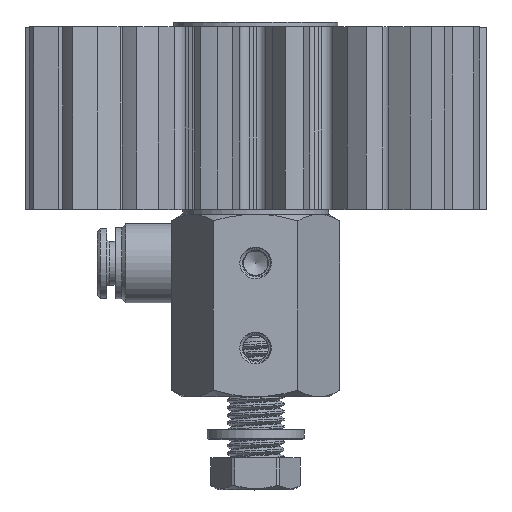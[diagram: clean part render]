
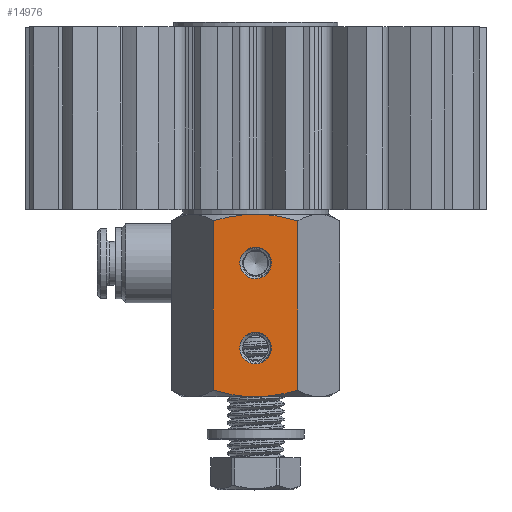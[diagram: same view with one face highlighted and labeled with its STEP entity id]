
A CAD part, top view. The second image highlights one B-rep face of the part: STEP entity #14976.
In plain terms, the highlighted planar face has unit normal (0, 0, 1).
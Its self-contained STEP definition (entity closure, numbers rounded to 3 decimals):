
#90 = EDGE_CURVE ( 'NONE', #27015, #6033, #15131, .T. ) ;
#274 = DIRECTION ( 'NONE',  ( 1., 0., 0. ) ) ;
#310 = CARTESIAN_POINT ( 'NONE',  ( 4.663, 0.477, 12. ) ) ;
#528 = CARTESIAN_POINT ( 'NONE',  ( 2.353, 0.124, 12. ) ) ;
#961 = CARTESIAN_POINT ( 'NONE',  ( 5.801, 0.746, 12. ) ) ;
#1232 = ORIENTED_EDGE ( 'NONE', *, *, #90, .T. ) ;
#1631 = EDGE_CURVE ( 'NONE', #38159, #13954, #20468, .T. ) ;
#1836 = PLANE ( 'NONE',  #23985 ) ;
#3122 = CARTESIAN_POINT ( 'NONE',  ( 4.661, 29.523, 12. ) ) ;
#4281 = CARTESIAN_POINT ( 'NONE',  ( -0.593, 30., 12. ) ) ;
#4329 = CARTESIAN_POINT ( 'NONE',  ( 0., 0., 12. ) ) ;
#4598 = EDGE_LOOP ( 'NONE', ( #30319 ) ) ;
#5013 = CARTESIAN_POINT ( 'NONE',  ( 6.928, 30., 12. ) ) ;
#5203 = ORIENTED_EDGE ( 'NONE', *, *, #20960, .T. ) ;
#5540 = CARTESIAN_POINT ( 'NONE',  ( 2.6, 8., 12. ) ) ;
#6033 = VERTEX_POINT ( 'NONE', #4329 ) ;
#6773 = VECTOR ( 'NONE', #24386, 1000. ) ;
#7153 = CARTESIAN_POINT ( 'NONE',  ( 6.928, 1.072, 12. ) ) ;
#7175 = ORIENTED_EDGE ( 'NONE', *, *, #26886, .T. ) ;
#7472 = DIRECTION ( 'NONE',  ( 0., 0., 1. ) ) ;
#8324 = CARTESIAN_POINT ( 'NONE',  ( -6.928, 28.928, 12. ) ) ;
#8405 = DIRECTION ( 'NONE',  ( -1., 0., 0. ) ) ;
#10098 = CIRCLE ( 'NONE', #31641, 2.6 ) ;
#10330 = CARTESIAN_POINT ( 'NONE',  ( 6.928, 28.928, 12. ) ) ;
#10480 = EDGE_CURVE ( 'NONE', #6033, #19406, #22964, .T. ) ;
#10809 = CARTESIAN_POINT ( 'NONE',  ( -2.353, 29.876, 12. ) ) ;
#10888 = LINE ( 'NONE', #14471, #6773 ) ;
#10895 = CARTESIAN_POINT ( 'NONE',  ( 0., 0., 12. ) ) ;
#10916 = B_SPLINE_CURVE_WITH_KNOTS ( 'NONE', 3,
 ( #10330, #34387, #3122, #44076, #19989, #34611 ),
 .UNSPECIFIED., .F., .F.,
 ( 4, 2, 4 ),
 ( 0.015, 0.019, 0.022 ),
 .UNSPECIFIED. ) ;
#11710 = CARTESIAN_POINT ( 'NONE',  ( -2.933, 29.803, 12. ) ) ;
#13167 = LINE ( 'NONE', #43298, #28460 ) ;
#13584 = CARTESIAN_POINT ( 'NONE',  ( -5.8, 0.746, 12. ) ) ;
#13954 = VERTEX_POINT ( 'NONE', #30226 ) ;
#14087 = ORIENTED_EDGE ( 'NONE', *, *, #42155, .F. ) ;
#14471 = CARTESIAN_POINT ( 'NONE',  ( 6.928, 30., 12. ) ) ;
#14613 = CARTESIAN_POINT ( 'NONE',  ( -1.183, 29.974, 12. ) ) ;
#14976 = ADVANCED_FACE ( 'NONE', ( #25701, #39866, #29512 ), #1836, .T. ) ;
#15131 = B_SPLINE_CURVE_WITH_KNOTS ( 'NONE', 3,
 ( #30247, #13584, #33831, #41464, #23718, #41029 ),
 .UNSPECIFIED., .F., .F.,
 ( 4, 2, 4 ),
 ( 0.015, 0.019, 0.022 ),
 .UNSPECIFIED. ) ;
#17337 = ORIENTED_EDGE ( 'NONE', *, *, #10480, .T. ) ;
#17586 = CARTESIAN_POINT ( 'NONE',  ( 0., 8., 12. ) ) ;
#17833 = DIRECTION ( 'NONE',  ( 0., 0., -1. ) ) ;
#19116 = CARTESIAN_POINT ( 'NONE',  ( 0., 30., 12. ) ) ;
#19272 = EDGE_LOOP ( 'NONE', ( #5203 ) ) ;
#19406 = VERTEX_POINT ( 'NONE', #7153 ) ;
#19989 = CARTESIAN_POINT ( 'NONE',  ( 1.186, 30., 12. ) ) ;
#20468 = B_SPLINE_CURVE_WITH_KNOTS ( 'NONE', 3,
 ( #42511, #4281, #14613, #10809, #11710, #25649, #40039, #8324 ),
 .UNSPECIFIED., .F., .F.,
 ( 4, 2, 2, 4 ),
 ( 0.022, 0.024, 0.026, 0.029 ),
 .UNSPECIFIED. ) ;
#20551 = AXIS2_PLACEMENT_3D ( 'NONE', #17586, #7472, #274 ) ;
#20960 = EDGE_CURVE ( 'NONE', #39034, #39034, #10098, .T. ) ;
#21888 = EDGE_LOOP ( 'NONE', ( #22915, #40230, #7175, #1232, #17337, #14087 ) ) ;
#21891 = CARTESIAN_POINT ( 'NONE',  ( 0.593, 0., 12. ) ) ;
#22093 = CARTESIAN_POINT ( 'NONE',  ( 6.928, 28.928, 12. ) ) ;
#22915 = ORIENTED_EDGE ( 'NONE', *, *, #43459, .T. ) ;
#22964 = B_SPLINE_CURVE_WITH_KNOTS ( 'NONE', 3,
 ( #10895, #21891, #25058, #528, #38768, #310, #961, #28648 ),
 .UNSPECIFIED., .F., .F.,
 ( 4, 2, 2, 4 ),
 ( 0.022, 0.024, 0.026, 0.029 ),
 .UNSPECIFIED. ) ;
#23718 = CARTESIAN_POINT ( 'NONE',  ( -1.186, 0., 12. ) ) ;
#23985 = AXIS2_PLACEMENT_3D ( 'NONE', #5013, #43229, #32890 ) ;
#24386 = DIRECTION ( 'NONE',  ( 0., -1., 0. ) ) ;
#25058 = CARTESIAN_POINT ( 'NONE',  ( 1.183, 0.026, 12. ) ) ;
#25649 = CARTESIAN_POINT ( 'NONE',  ( -4.663, 29.523, 12. ) ) ;
#25701 = FACE_BOUND ( 'NONE', #4598, .T. ) ;
#26886 = EDGE_CURVE ( 'NONE', #13954, #27015, #13167, .T. ) ;
#26891 = DIRECTION ( 'NONE',  ( 0., -1., 0. ) ) ;
#27015 = VERTEX_POINT ( 'NONE', #43753 ) ;
#28460 = VECTOR ( 'NONE', #26891, 1000. ) ;
#28648 = CARTESIAN_POINT ( 'NONE',  ( 6.928, 1.072, 12. ) ) ;
#29512 = FACE_OUTER_BOUND ( 'NONE', #21888, .T. ) ;
#30226 = CARTESIAN_POINT ( 'NONE',  ( -6.928, 28.928, 12. ) ) ;
#30247 = CARTESIAN_POINT ( 'NONE',  ( -6.928, 1.072, 12. ) ) ;
#30319 = ORIENTED_EDGE ( 'NONE', *, *, #36360, .F. ) ;
#31641 = AXIS2_PLACEMENT_3D ( 'NONE', #39210, #17833, #8405 ) ;
#32890 = DIRECTION ( 'NONE',  ( 1., 0., 0. ) ) ;
#33831 = CARTESIAN_POINT ( 'NONE',  ( -4.661, 0.477, 12. ) ) ;
#33999 = VERTEX_POINT ( 'NONE', #22093 ) ;
#34387 = CARTESIAN_POINT ( 'NONE',  ( 5.8, 29.254, 12. ) ) ;
#34611 = CARTESIAN_POINT ( 'NONE',  ( 0., 30., 12. ) ) ;
#36343 = VERTEX_POINT ( 'NONE', #5540 ) ;
#36360 = EDGE_CURVE ( 'NONE', #36343, #36343, #42808, .T. ) ;
#38159 = VERTEX_POINT ( 'NONE', #19116 ) ;
#38592 = CARTESIAN_POINT ( 'NONE',  ( -2.6, 22., 12. ) ) ;
#38768 = CARTESIAN_POINT ( 'NONE',  ( 2.933, 0.197, 12. ) ) ;
#39034 = VERTEX_POINT ( 'NONE', #38592 ) ;
#39210 = CARTESIAN_POINT ( 'NONE',  ( 0., 22., 12. ) ) ;
#39866 = FACE_BOUND ( 'NONE', #19272, .T. ) ;
#40039 = CARTESIAN_POINT ( 'NONE',  ( -5.801, 29.254, 12. ) ) ;
#40230 = ORIENTED_EDGE ( 'NONE', *, *, #1631, .T. ) ;
#41029 = CARTESIAN_POINT ( 'NONE',  ( 0., 0., 12. ) ) ;
#41464 = CARTESIAN_POINT ( 'NONE',  ( -2.354, 0.103, 12. ) ) ;
#42155 = EDGE_CURVE ( 'NONE', #33999, #19406, #10888, .T. ) ;
#42511 = CARTESIAN_POINT ( 'NONE',  ( 0., 30., 12. ) ) ;
#42808 = CIRCLE ( 'NONE', #20551, 2.6 ) ;
#43229 = DIRECTION ( 'NONE',  ( 0., 0., 1. ) ) ;
#43298 = CARTESIAN_POINT ( 'NONE',  ( -6.928, 30., 12. ) ) ;
#43459 = EDGE_CURVE ( 'NONE', #33999, #38159, #10916, .T. ) ;
#43753 = CARTESIAN_POINT ( 'NONE',  ( -6.928, 1.072, 12. ) ) ;
#44076 = CARTESIAN_POINT ( 'NONE',  ( 2.354, 29.897, 12. ) ) ;
